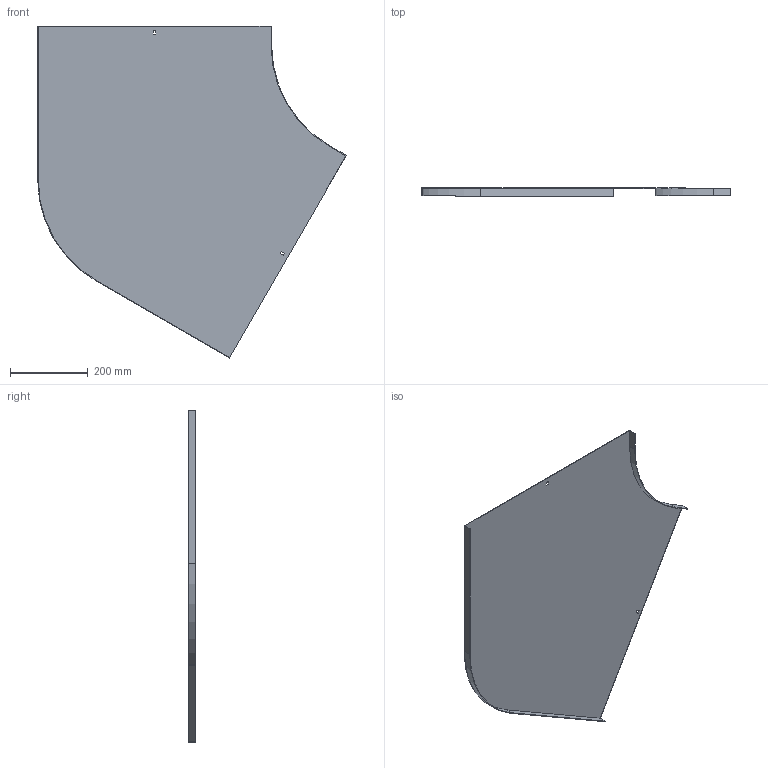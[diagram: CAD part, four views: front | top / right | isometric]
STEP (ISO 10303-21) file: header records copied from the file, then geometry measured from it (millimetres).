
FILE_DESCRIPTION (( 'STEP AP214' ), '1' );
FILE_NAME ('B2_13N3R600.step', '2025-02-21T10:52:53', ( '' ), ( '' ), 'SwSTEP 2.0', 'SolidWorks 2023', '' );
FILE_SCHEMA (( 'AUTOMOTIVE_DESIGN' ));
Length unit declared in the file: millimetre
Products named in the file (1): B2_13N3R600
Bounding box: 795.55 x 20 x 855.72 mm (x, y, z)
Volume: 758997 mm3; surface area: 1016290.7 mm2
Topology: 1 solids, 1 shells, 26 faces, 72 edges, 48 vertices
Faces by surface type: plane 22, cylinder 4
Entity records: 855 total; most frequent: CARTESIAN_POINT 147, ORIENTED_EDGE 144, DIRECTION 134, EDGE_CURVE 72, LINE 64, VECTOR 64, VERTEX_POINT 48, AXIS2_PLACEMENT_3D 35
